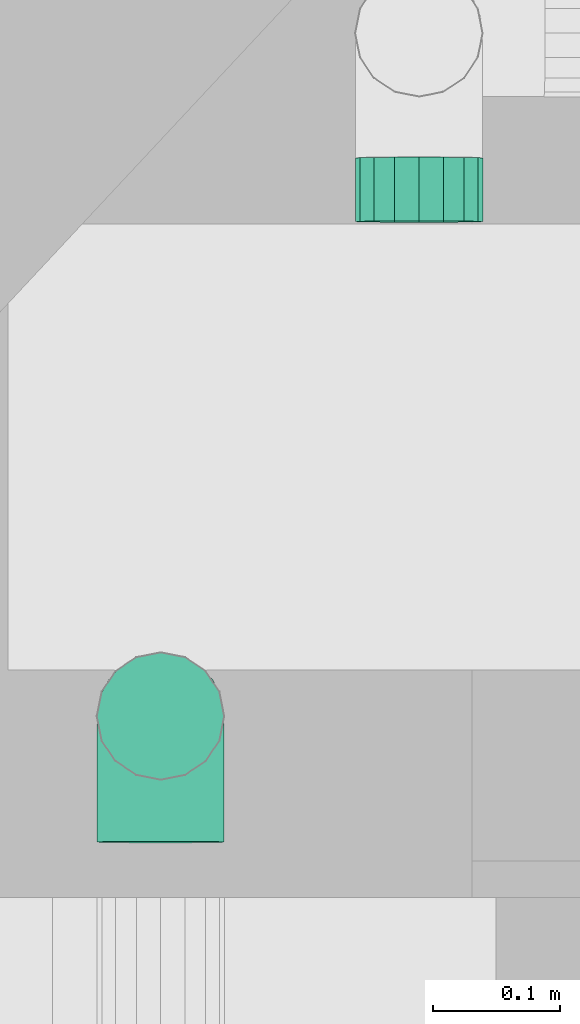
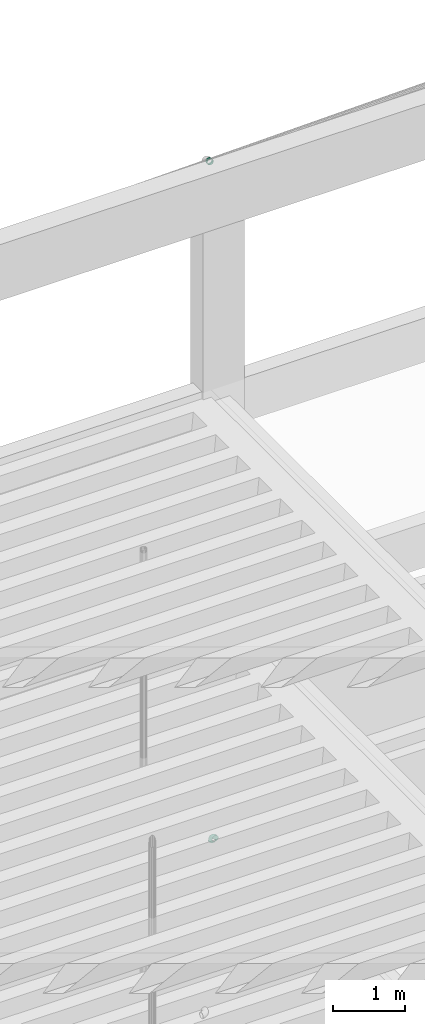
# One storey, part 90 of 108: 1 flow fitting, 1 flow segment.
"""IFC2X3 building model written with IfcOpenShell, lengths in metres."""

from ifc_helpers import new_model, entity, si_unit, converted_unit, derived_unit, money_unit, direction, frame, origin_with_axes, place, context, subcontext, project, spatial, open_shell, faceted_brep, surface_model, material, type_object, element, save


model = new_model("IFC2X3")

# Units and contexts
model_context = context("Model", 3, precision=1e-05, world=origin_with_axes(), true_north=direction((0.0, 1.0)))
body_context = subcontext(model_context, "Body", "Model", "MODEL_VIEW", scale=1.0)
ifc_project = project(units=[si_unit("LENGTHUNIT", "METRE"), si_unit("AREAUNIT", "SQUARE_METRE"), si_unit("VOLUMEUNIT", "CUBIC_METRE"), si_unit("ABSORBEDDOSEUNIT", "GRAY"), si_unit("AMOUNTOFSUBSTANCEUNIT", "MOLE"), si_unit("DOSEEQUIVALENTUNIT", "SIEVERT"), si_unit("ELECTRICCAPACITANCEUNIT", "FARAD"), si_unit("ELECTRICCHARGEUNIT", "COULOMB"), si_unit("ELECTRICCONDUCTANCEUNIT", "SIEMENS"), si_unit("ELECTRICCURRENTUNIT", "AMPERE"), si_unit("ELECTRICRESISTANCEUNIT", "OHM"), si_unit("ELECTRICVOLTAGEUNIT", "VOLT"), si_unit("ENERGYUNIT", "JOULE"), si_unit("FORCEUNIT", "NEWTON"), si_unit("FREQUENCYUNIT", "HERTZ"), si_unit("ILLUMINANCEUNIT", "LUX"), si_unit("INDUCTANCEUNIT", "HENRY"), si_unit("LUMINOUSFLUXUNIT", "LUMEN"), si_unit("LUMINOUSINTENSITYUNIT", "CANDELA"), si_unit("MAGNETICFLUXDENSITYUNIT", "TESLA"), si_unit("MAGNETICFLUXUNIT", "WEBER"), si_unit("MASSUNIT", "GRAM"), converted_unit("PLANEANGLEUNIT", "degree", entity("IfcReal", 0.0174532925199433), si_unit("PLANEANGLEUNIT", "RADIAN"), dimensions=[0, 0, 0, 0, 0, 0, 0]), si_unit("POWERUNIT", "WATT"), si_unit("PRESSUREUNIT", "PASCAL"), si_unit("RADIOACTIVITYUNIT", "BECQUEREL"), si_unit("SOLIDANGLEUNIT", "STERADIAN"), si_unit("THERMODYNAMICTEMPERATUREUNIT", "KELVIN"), si_unit("TIMEUNIT", "SECOND"), derived_unit("ACCELERATIONUNIT", [(si_unit("LENGTHUNIT", "METRE"), 1), (si_unit("TIMEUNIT", "SECOND"), -2)]), derived_unit("ANGULARVELOCITYUNIT", [(converted_unit("PLANEANGLEUNIT", "degree", entity("IfcReal", 0.0174532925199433), si_unit("PLANEANGLEUNIT", "RADIAN"), dimensions=[0, 0, 0, 0, 0, 0, 0]), 1), (si_unit("TIMEUNIT", "SECOND"), -1)]), derived_unit("CURVATUREUNIT", [(converted_unit("PLANEANGLEUNIT", "degree", entity("IfcReal", 0.0174532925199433), si_unit("PLANEANGLEUNIT", "RADIAN"), dimensions=[0, 0, 0, 0, 0, 0, 0]), 1), (si_unit("LENGTHUNIT", "METRE"), -1)]), derived_unit("DYNAMICVISCOSITYUNIT", [(si_unit("PRESSUREUNIT", "PASCAL"), 1), (si_unit("TIMEUNIT", "SECOND"), 1)]), derived_unit("HEATFLUXDENSITYUNIT", [(si_unit("POWERUNIT", "WATT"), 1), (si_unit("LENGTHUNIT", "METRE"), -2)]), derived_unit("HEATINGVALUEUNIT", [(si_unit("ENERGYUNIT", "JOULE"), 1), (si_unit("MASSUNIT", "GRAM"), -1)]), derived_unit("INTEGERCOUNTRATEUNIT", [(si_unit("TIMEUNIT", "SECOND"), -1)]), derived_unit("IONCONCENTRATIONUNIT", [(si_unit("MASSUNIT", "GRAM"), 1), (si_unit("VOLUMEUNIT", "CUBIC_METRE"), -1)]), derived_unit("ISOTHERMALMOISTURECAPACITYUNIT", [(si_unit("VOLUMEUNIT", "CUBIC_METRE"), 1), (si_unit("MASSUNIT", "GRAM"), -1)]), derived_unit("KINEMATICVISCOSITYUNIT", [(si_unit("AREAUNIT", "SQUARE_METRE"), 1), (si_unit("TIMEUNIT", "SECOND"), -1)]), derived_unit("LINEARFORCEUNIT", [(si_unit("FORCEUNIT", "NEWTON"), 1), (si_unit("LENGTHUNIT", "METRE"), -1)]), derived_unit("LINEARMOMENTUNIT", [(si_unit("FORCEUNIT", "NEWTON"), 1), (si_unit("LENGTHUNIT", "METRE"), -1)]), derived_unit("LINEARSTIFFNESSUNIT", [(si_unit("FORCEUNIT", "NEWTON"), 1), (si_unit("LENGTHUNIT", "METRE"), -1)]), derived_unit("LINEARVELOCITYUNIT", [(si_unit("LENGTHUNIT", "METRE"), 1), (si_unit("TIMEUNIT", "SECOND"), -1)]), derived_unit("LUMINOUSINTENSITYDISTRIBUTIONUNIT", [(si_unit("LUMINOUSINTENSITYUNIT", "CANDELA"), 1), (si_unit("LUMINOUSFLUXUNIT", "LUMEN"), -1)]), derived_unit("MASSDENSITYUNIT", [(si_unit("MASSUNIT", "GRAM"), 1), (si_unit("VOLUMEUNIT", "CUBIC_METRE"), -1)]), derived_unit("MASSFLOWRATEUNIT", [(si_unit("MASSUNIT", "GRAM"), 1), (si_unit("TIMEUNIT", "SECOND"), -1)]), derived_unit("MASSPERLENGTHUNIT", [(si_unit("MASSUNIT", "GRAM"), 1), (si_unit("LENGTHUNIT", "METRE"), -1)]), derived_unit("MODULUSOFELASTICITYUNIT", [(si_unit("FORCEUNIT", "NEWTON"), 1), (si_unit("AREAUNIT", "SQUARE_METRE"), -1)]), derived_unit("MODULUSOFLINEARSUBGRADEREACTIONUNIT", [(si_unit("FORCEUNIT", "NEWTON"), 1), (si_unit("LENGTHUNIT", "METRE"), -2)]), derived_unit("MODULUSOFROTATIONALSUBGRADEREACTIONUNIT", [(si_unit("FORCEUNIT", "NEWTON"), 1), (si_unit("LENGTHUNIT", "METRE"), 1)]), derived_unit("MODULUSOFSUBGRADEREACTIONUNIT", [(si_unit("FORCEUNIT", "NEWTON"), 1), (si_unit("VOLUMEUNIT", "CUBIC_METRE"), -1)]), derived_unit("MOISTUREDIFFUSIVITYUNIT", [(si_unit("VOLUMEUNIT", "CUBIC_METRE"), 1), (si_unit("TIMEUNIT", "SECOND"), -1)]), derived_unit("MOLECULARWEIGHTUNIT", [(si_unit("MASSUNIT", "GRAM"), 1), (si_unit("AMOUNTOFSUBSTANCEUNIT", "MOLE"), -1)]), derived_unit("PLANARFORCEUNIT", [(si_unit("FORCEUNIT", "NEWTON"), 1), (si_unit("LENGTHUNIT", "METRE"), -2)]), derived_unit("ROTATIONALFREQUENCYUNIT", [(si_unit("TIMEUNIT", "SECOND"), -1)]), derived_unit("ROTATIONALMASSUNIT", [(si_unit("MASSUNIT", "GRAM"), 1), (si_unit("LENGTHUNIT", "METRE"), 2)]), derived_unit("ROTATIONALSTIFFNESSUNIT", [(si_unit("FORCEUNIT", "NEWTON"), 1), (si_unit("LENGTHUNIT", "METRE"), 1), (converted_unit("PLANEANGLEUNIT", "degree", entity("IfcReal", 0.0174532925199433), si_unit("PLANEANGLEUNIT", "RADIAN"), dimensions=[0, 0, 0, 0, 0, 0, 0]), -1)]), derived_unit("SECTIONAREAINTEGRALUNIT", [(si_unit("LENGTHUNIT", "METRE"), 5)]), derived_unit("SECTIONMODULUSUNIT", [(si_unit("LENGTHUNIT", "METRE"), 3)]), derived_unit("SHEARMODULUSUNIT", [(si_unit("FORCEUNIT", "NEWTON"), 1), (si_unit("AREAUNIT", "SQUARE_METRE"), -1)]), derived_unit("SOUNDPOWERUNIT", [(si_unit("ENERGYUNIT", "JOULE"), 1), (si_unit("TIMEUNIT", "SECOND"), -1)]), derived_unit("SPECIFICHEATCAPACITYUNIT", [(si_unit("FORCEUNIT", "NEWTON"), 1), (si_unit("MASSUNIT", "GRAM"), -1), (si_unit("THERMODYNAMICTEMPERATUREUNIT", "KELVIN"), -1)]), derived_unit("TEMPERATUREGRADIENTUNIT", [(si_unit("THERMODYNAMICTEMPERATUREUNIT", "KELVIN"), 1), (si_unit("LENGTHUNIT", "METRE"), -1)]), derived_unit("THERMALADMITTANCEUNIT", [(si_unit("POWERUNIT", "WATT"), 1), (si_unit("AREAUNIT", "SQUARE_METRE"), -1), (si_unit("THERMODYNAMICTEMPERATUREUNIT", "KELVIN"), -1)]), derived_unit("THERMALCONDUCTANCEUNIT", [(si_unit("POWERUNIT", "WATT"), 1), (si_unit("LENGTHUNIT", "METRE"), -1), (si_unit("THERMODYNAMICTEMPERATUREUNIT", "KELVIN"), -1)]), derived_unit("THERMALEXPANSIONCOEFFICIENTUNIT", [(si_unit("THERMODYNAMICTEMPERATUREUNIT", "KELVIN"), -1)]), derived_unit("THERMALRESISTANCEUNIT", [(si_unit("AREAUNIT", "SQUARE_METRE"), 1), (si_unit("POWERUNIT", "WATT"), -1)]), derived_unit("THERMALTRANSMITTANCEUNIT", [(si_unit("POWERUNIT", "WATT"), 1), (si_unit("AREAUNIT", "SQUARE_METRE"), -1), (si_unit("THERMODYNAMICTEMPERATUREUNIT", "KELVIN"), -1)]), derived_unit("TORQUEUNIT", [(si_unit("FORCEUNIT", "NEWTON"), 1), (si_unit("LENGTHUNIT", "METRE"), 1)]), derived_unit("VAPORPERMEABILITYUNIT", [(si_unit("MASSUNIT", "GRAM"), 1), (si_unit("TIMEUNIT", "SECOND"), -1)]), derived_unit("VOLUMETRICFLOWRATEUNIT", [(si_unit("VOLUMEUNIT", "CUBIC_METRE"), 1), (si_unit("TIMEUNIT", "SECOND"), -1)]), derived_unit("WARPINGCONSTANTUNIT", [(si_unit("LENGTHUNIT", "METRE"), 6)]), derived_unit("WARPINGMOMENTUNIT", [(si_unit("FORCEUNIT", "NEWTON"), 1), (si_unit("LENGTHUNIT", "METRE"), 2)]), money_unit("GBP")], contexts=[model_context])

# Site, building, storey
site_placement = place(None, origin_with_axes())
site = spatial("IfcSite", under=ifc_project, at=site_placement, Name="Site", CompositionType="ELEMENT")
building_placement = place(site_placement, origin_with_axes())
building = spatial("IfcBuilding", under=site, at=building_placement, Name="Building01", CompositionType="ELEMENT")
storey_placement = place(building_placement, origin_with_axes())
storey = spatial("IfcBuildingStorey", under=building, at=storey_placement, Name="GF", CompositionType="ELEMENT", Elevation=0.0)

# Flow segment
ifc_material = material(Name="M_BSUK_ColdWater")
pipe_segment_type = type_object("IfcPipeSegmentType", Name="M-BmpStraightpipe-DefaultPipe", PredefinedType="RIGIDSEGMENT")
flow_segment_placement = place(storey_placement, frame((9.112744, 14.802004, 15.676629), z_axis=(0.0, 0.01249902, 0.99992188), x_axis=(0.0, 0.99992188, -0.01249902)))
element("IfcFlowSegment", 1, at=flow_segment_placement, inside=storey, type_object=pipe_segment_type, material=ifc_material, Name="M-BmpStraightpipe-DefaultPipe", ObjectType="M-BmpStraightpipe-DefaultPipe", context=body_context, shape_type="Brep", body=[
    faceted_brep([(0.05, 0.0, -0.05), (0.0, 0.0, -0.05), (0.0, 0.019134, -0.046194), (0.05, 0.019134, -0.046194), (0.0, 0.035355, -0.035355), (0.05, 0.035355, -0.035355), (0.0, 0.046194, -0.019134), (0.05, 0.046194, -0.019134), (0.0, 0.05, 0.0), (0.05, 0.05, 0.0), (0.0, 0.046194, 0.019134), (0.05, 0.046194, 0.019134), (0.0, 0.035355, 0.035355), (0.05, 0.035355, 0.035355), (0.0, 0.019134, 0.046194), (0.05, 0.019134, 0.046194), (0.0, 0.0, 0.05), (0.05, 0.0, 0.05), (0.0, -0.019134, 0.046194), (0.05, -0.019134, 0.046194), (0.0, -0.035355, 0.035355), (0.05, -0.035355, 0.035355), (0.0, -0.046194, 0.019134), (0.05, -0.046194, 0.019134), (0.0, -0.05, 0.0), (0.05, -0.05, 0.0), (0.0, -0.046194, -0.019134), (0.05, -0.046194, -0.019134), (0.0, -0.035355, -0.035355), (0.05, -0.035355, -0.035355), (0.0, -0.019134, -0.046194), (0.05, -0.019134, -0.046194)], [[[0, 1, 2, 3]], [[3, 2, 4, 5]], [[5, 4, 6, 7]], [[7, 6, 8, 9]], [[9, 8, 10, 11]], [[11, 10, 12, 13]], [[13, 12, 14, 15]], [[15, 14, 16, 17]], [[17, 16, 18, 19]], [[19, 18, 20, 21]], [[21, 20, 22, 23]], [[23, 22, 24, 25]], [[25, 24, 26, 27]], [[27, 26, 28, 29]], [[29, 28, 30, 31]], [[31, 30, 1, 0]]]),
])

# Flow fitting
pipe_fitting_type = type_object("IfcPipeFittingType", Name="M-BmpElbow-DefaultElbow", PredefinedType="BEND")
flow_fitting_placement = place(storey_placement, frame((8.909935, 14.315044, 4.544738), z_axis=(0.0, 0.01249902, 0.99992188), x_axis=(0.0, 0.99992188, -0.01249902)))
element("IfcFlowFitting", 2, at=flow_fitting_placement, inside=storey, type_object=pipe_fitting_type, material=ifc_material, Name="M-BmpElbow-DefaultElbow", ObjectType="M-BmpElbow-DefaultElbow", context=body_context, shape_type="SurfaceModel", body=[
    surface_model("IfcShellBasedSurfaceModel", [(0.008048, -0.01349, -0.048774), (0.0, -0.01349, -0.048146), (0.0, 0.0, -0.05), (0.00776, 0.0, -0.050606), (0.0159, -0.01349, -0.050644), (0.015332, 0.0, -0.052409), (0.023368, -0.01349, -0.05371), (0.022532, 0.0, -0.055365), (0.030269, -0.01349, -0.057897), (0.029187, 0.0, -0.059403), (0.036437, -0.01349, -0.063105), (0.035134, 0.0, -0.064424), (0.041721, -0.01349, -0.069207), (0.040229, 0.0, -0.070308), (0.045995, -0.01349, -0.076055), (0.04435, 0.0, -0.076912), (0.049154, -0.01349, -0.083484), (0.047396, 0.0, -0.084074), (0.051121, -0.01349, -0.091313), (0.049293, 0.0, -0.091623), (0.05185, -0.01349, -0.099352), (0.049996, 0.0, -0.099375), (0.00889, -0.025979, -0.043415), (0.0, -0.025979, -0.042721), (0.017564, -0.025979, -0.04548), (0.025813, -0.025979, -0.048867), (0.033436, -0.025979, -0.053493), (0.040248, -0.025979, -0.059245), (0.046086, -0.025979, -0.065986), (0.050807, -0.025979, -0.07355), (0.054296, -0.025979, -0.081756), (0.056469, -0.025979, -0.090404), (0.057275, -0.025979, -0.099284), (0.010223, -0.036542, -0.034926), (0.0, -0.036542, -0.034128), (0.020199, -0.036542, -0.037301), (0.029685, -0.036542, -0.041196), (0.038452, -0.036542, -0.046515), (0.046287, -0.036542, -0.053131), (0.053, -0.036542, -0.060883), (0.058429, -0.036542, -0.069582), (0.062442, -0.036542, -0.079019), (0.064941, -0.036542, -0.088964), (0.065867, -0.036542, -0.099177), (0.01195, -0.044394, -0.023936), (0.0, -0.044394, -0.023003), (0.02361, -0.044394, -0.026712), (0.034698, -0.044394, -0.031265), (0.044946, -0.044394, -0.037483), (0.054104, -0.044394, -0.045216), (0.061951, -0.044394, -0.054277), (0.068296, -0.044394, -0.064445), (0.072987, -0.044394, -0.075476), (0.075908, -0.044394, -0.0871), (0.076991, -0.044394, -0.099038), (0.013941, -0.048954, -0.011261), (0.0, -0.048954, -0.010173), (0.027544, -0.048954, -0.0145), (0.04048, -0.048954, -0.019811), (0.052435, -0.048954, -0.027065), (0.063119, -0.048954, -0.036087), (0.072274, -0.048954, -0.046657), (0.079677, -0.048954, -0.058521), (0.085149, -0.048954, -0.071389), (0.088558, -0.048954, -0.084951), (0.08982, -0.048954, -0.098877), (0.01605, -0.049883, 0.002159), (0.0, -0.049883, 0.003412), (0.03171, -0.049883, -0.00157), (0.046602, -0.049883, -0.007684), (0.060365, -0.049883, -0.016035), (0.072665, -0.049883, -0.026421), (0.083204, -0.049883, -0.03859), (0.091727, -0.049883, -0.052247), (0.098026, -0.049883, -0.067062), (0.101951, -0.049883, -0.082675), (0.103404, -0.049883, -0.098707), (0.018119, -0.047113, 0.015329), (0.0, -0.047113, 0.016744), (0.035798, -0.047113, 0.01112), (0.05261, -0.047113, 0.004218), (0.068147, -0.047113, -0.00521), (0.082033, -0.047113, -0.016935), (0.093931, -0.047113, -0.030673), (0.103552, -0.047113, -0.046091), (0.110664, -0.047113, -0.062816), (0.115094, -0.047113, -0.080441), (0.116735, -0.047113, -0.098541), (0.019995, -0.040848, 0.027273), (0.0, -0.040848, 0.028834), (0.039505, -0.040848, 0.022628), (0.058059, -0.040848, 0.01501), (0.075205, -0.040848, 0.004606), (0.090528, -0.040848, -0.008333), (0.103658, -0.040848, -0.023494), (0.114276, -0.040848, -0.040508), (0.122124, -0.040848, -0.058965), (0.127013, -0.040848, -0.078416), (0.128824, -0.040848, -0.09839), (0.021539, -0.031554, 0.037104), (0.0, -0.031554, 0.038786), (0.042557, -0.031554, 0.0321), (0.062543, -0.031554, 0.023894), (0.081014, -0.031554, 0.012686), (0.097521, -0.031554, -0.001252), (0.111665, -0.031554, -0.017584), (0.123103, -0.031554, -0.035913), (0.131557, -0.031554, -0.055795), (0.136824, -0.031554, -0.076749), (0.138775, -0.031554, -0.098265), (0.022638, -0.01992, 0.044093), (0.0, -0.01992, 0.045861), (0.044726, -0.01992, 0.038834), (0.065732, -0.01992, 0.03021), (0.085144, -0.01992, 0.018431), (0.102492, -0.01992, 0.003782), (0.117357, -0.01992, -0.013383), (0.129378, -0.01992, -0.032646), (0.138264, -0.01992, -0.053542), (0.143799, -0.01992, -0.075563), (0.145849, -0.01992, -0.098177), (0.023208, -0.006808, 0.047722), (0.0, -0.006808, 0.049534), (0.045853, -0.006808, 0.042331), (0.067387, -0.006808, 0.03349), (0.087288, -0.006808, 0.021414), (0.105074, -0.006808, 0.006395), (0.120313, -0.006808, -0.011201), (0.132637, -0.006808, -0.03095), (0.141746, -0.006808, -0.052372), (0.147421, -0.006808, -0.074948), (0.149523, -0.006808, -0.098131), (0.023208, 0.006808, 0.047722), (0.0, 0.006808, 0.049534), (0.045853, 0.006808, 0.042331), (0.067387, 0.006808, 0.03349), (0.087288, 0.006808, 0.021414), (0.105074, 0.006808, 0.006395), (0.120313, 0.006808, -0.011201), (0.132637, 0.006808, -0.03095), (0.141746, 0.006808, -0.052372), (0.147421, 0.006808, -0.074948), (0.149523, 0.006808, -0.098131), (0.022638, 0.01992, 0.044093), (0.0, 0.01992, 0.045861), (0.044726, 0.01992, 0.038834), (0.065732, 0.01992, 0.03021), (0.085144, 0.01992, 0.018431), (0.102492, 0.01992, 0.003782), (0.117357, 0.01992, -0.013383), (0.129378, 0.01992, -0.032646), (0.138264, 0.01992, -0.053542), (0.143799, 0.01992, -0.075563), (0.145849, 0.01992, -0.098177), (0.021539, 0.031554, 0.037104), (0.0, 0.031554, 0.038786), (0.042557, 0.031554, 0.0321), (0.062543, 0.031554, 0.023894), (0.081014, 0.031554, 0.012686), (0.097521, 0.031554, -0.001252), (0.111665, 0.031554, -0.017584), (0.123103, 0.031554, -0.035913), (0.131557, 0.031554, -0.055795), (0.136824, 0.031554, -0.076749), (0.138775, 0.031554, -0.098265), (0.019995, 0.040848, 0.027273), (0.0, 0.040848, 0.028834), (0.039505, 0.040848, 0.022628), (0.058059, 0.040848, 0.01501), (0.075205, 0.040848, 0.004606), (0.090528, 0.040848, -0.008333), (0.103658, 0.040848, -0.023494), (0.114276, 0.040848, -0.040508), (0.122124, 0.040848, -0.058965), (0.127013, 0.040848, -0.078416), (0.128824, 0.040848, -0.09839), (0.018119, 0.047113, 0.015329), (0.0, 0.047113, 0.016744), (0.035798, 0.047113, 0.01112), (0.05261, 0.047113, 0.004218), (0.068147, 0.047113, -0.00521), (0.082033, 0.047113, -0.016935), (0.093931, 0.047113, -0.030673), (0.103552, 0.047113, -0.046091), (0.110664, 0.047113, -0.062816), (0.115094, 0.047113, -0.080441), (0.116735, 0.047113, -0.098541), (0.01605, 0.049883, 0.002159), (0.0, 0.049883, 0.003412), (0.03171, 0.049883, -0.00157), (0.046602, 0.049883, -0.007684), (0.060365, 0.049883, -0.016035), (0.072665, 0.049883, -0.026421), (0.083204, 0.049883, -0.03859), (0.091727, 0.049883, -0.052247), (0.098026, 0.049883, -0.067062), (0.101951, 0.049883, -0.082675), (0.103404, 0.049883, -0.098707), (0.013941, 0.048954, -0.011261), (0.0, 0.048954, -0.010173), (0.027544, 0.048954, -0.0145), (0.04048, 0.048954, -0.019811), (0.052435, 0.048954, -0.027065), (0.063119, 0.048954, -0.036087), (0.072274, 0.048954, -0.046657), (0.079677, 0.048954, -0.058521), (0.085149, 0.048954, -0.071389), (0.088558, 0.048954, -0.084951), (0.08982, 0.048954, -0.098877), (0.01195, 0.044394, -0.023936), (0.0, 0.044394, -0.023003), (0.02361, 0.044394, -0.026712), (0.034698, 0.044394, -0.031265), (0.044946, 0.044394, -0.037483), (0.054104, 0.044394, -0.045216), (0.061951, 0.044394, -0.054277), (0.068296, 0.044394, -0.064445), (0.072987, 0.044394, -0.075476), (0.075908, 0.044394, -0.0871), (0.076991, 0.044394, -0.099038), (0.010223, 0.036542, -0.034926), (0.0, 0.036542, -0.034128), (0.020199, 0.036542, -0.037301), (0.029685, 0.036542, -0.041196), (0.038452, 0.036542, -0.046515), (0.046287, 0.036542, -0.053131), (0.053, 0.036542, -0.060883), (0.058429, 0.036542, -0.069582), (0.062442, 0.036542, -0.079019), (0.064941, 0.036542, -0.088964), (0.065867, 0.036542, -0.099177), (0.00889, 0.025979, -0.043415), (0.0, 0.025979, -0.042721), (0.017564, 0.025979, -0.04548), (0.025813, 0.025979, -0.048867), (0.033436, 0.025979, -0.053493), (0.040248, 0.025979, -0.059245), (0.046086, 0.025979, -0.065986), (0.050807, 0.025979, -0.07355), (0.054296, 0.025979, -0.081756), (0.056469, 0.025979, -0.090404), (0.057275, 0.025979, -0.099284), (0.008048, 0.01349, -0.048774), (0.0, 0.01349, -0.048146), (0.0159, 0.01349, -0.050644), (0.023368, 0.01349, -0.05371), (0.030269, 0.01349, -0.057897), (0.036437, 0.01349, -0.063105), (0.041721, 0.01349, -0.069207), (0.045995, 0.01349, -0.076055), (0.049154, 0.01349, -0.083484), (0.051121, 0.01349, -0.091313), (0.05185, 0.01349, -0.099352)], [open_shell([[[0, 1, 2, 3]], [[4, 0, 3, 5]], [[6, 4, 5, 7]], [[8, 6, 7, 9]], [[10, 8, 9, 11]], [[12, 10, 11, 13]], [[14, 12, 13, 15]], [[16, 14, 15, 17]], [[18, 16, 17, 19]], [[20, 18, 19, 21]], [[22, 23, 1, 0]], [[24, 22, 0, 4]], [[25, 24, 4, 6]], [[26, 25, 6, 8]], [[27, 26, 8, 10]], [[28, 27, 10, 12]], [[29, 28, 12, 14]], [[30, 29, 14, 16]], [[31, 30, 16, 18]], [[32, 31, 18, 20]], [[33, 34, 23, 22]], [[35, 33, 22, 24]], [[36, 35, 24, 25]], [[37, 36, 25, 26]], [[38, 37, 26, 27]], [[39, 38, 27, 28]], [[40, 39, 28, 29]], [[41, 40, 29, 30]], [[42, 41, 30, 31]], [[43, 42, 31, 32]], [[44, 45, 34, 33]], [[46, 44, 33, 35]], [[47, 46, 35, 36]], [[48, 47, 36, 37]], [[49, 48, 37, 38]], [[50, 49, 38, 39]], [[51, 50, 39, 40]], [[52, 51, 40, 41]], [[53, 52, 41, 42]], [[54, 53, 42, 43]], [[55, 56, 45, 44]], [[57, 55, 44, 46]], [[58, 57, 46, 47]], [[59, 58, 47, 48]], [[60, 59, 48, 49]], [[61, 60, 49, 50]], [[62, 61, 50, 51]], [[63, 62, 51, 52]], [[64, 63, 52, 53]], [[65, 64, 53, 54]], [[66, 67, 56, 55]], [[68, 66, 55, 57]], [[69, 68, 57, 58]], [[70, 69, 58, 59]], [[71, 70, 59, 60]], [[72, 71, 60, 61]], [[73, 72, 61, 62]], [[74, 73, 62, 63]], [[75, 74, 63, 64]], [[76, 75, 64, 65]], [[77, 78, 67, 66]], [[79, 77, 66, 68]], [[80, 79, 68, 69]], [[81, 80, 69, 70]], [[82, 81, 70, 71]], [[83, 82, 71, 72]], [[84, 83, 72, 73]], [[85, 84, 73, 74]], [[86, 85, 74, 75]], [[87, 86, 75, 76]], [[88, 89, 78, 77]], [[90, 88, 77, 79]], [[91, 90, 79, 80]], [[92, 91, 80, 81]], [[93, 92, 81, 82]], [[94, 93, 82, 83]], [[95, 94, 83, 84]], [[96, 95, 84, 85]], [[97, 96, 85, 86]], [[98, 97, 86, 87]], [[99, 100, 89, 88]], [[101, 99, 88, 90]], [[102, 101, 90, 91]], [[103, 102, 91, 92]], [[104, 103, 92, 93]], [[105, 104, 93, 94]], [[106, 105, 94, 95]], [[107, 106, 95, 96]], [[108, 107, 96, 97]], [[109, 108, 97, 98]], [[110, 111, 100, 99]], [[112, 110, 99, 101]], [[113, 112, 101, 102]], [[114, 113, 102, 103]], [[115, 114, 103, 104]], [[116, 115, 104, 105]], [[117, 116, 105, 106]], [[118, 117, 106, 107]], [[119, 118, 107, 108]], [[120, 119, 108, 109]], [[121, 122, 111, 110]], [[123, 121, 110, 112]], [[124, 123, 112, 113]], [[125, 124, 113, 114]], [[126, 125, 114, 115]], [[127, 126, 115, 116]], [[128, 127, 116, 117]], [[129, 128, 117, 118]], [[130, 129, 118, 119]], [[131, 130, 119, 120]], [[132, 133, 122, 121]], [[134, 132, 121, 123]], [[135, 134, 123, 124]], [[136, 135, 124, 125]], [[137, 136, 125, 126]], [[138, 137, 126, 127]], [[139, 138, 127, 128]], [[140, 139, 128, 129]], [[141, 140, 129, 130]], [[142, 141, 130, 131]], [[143, 144, 133, 132]], [[145, 143, 132, 134]], [[146, 145, 134, 135]], [[147, 146, 135, 136]], [[148, 147, 136, 137]], [[149, 148, 137, 138]], [[150, 149, 138, 139]], [[151, 150, 139, 140]], [[152, 151, 140, 141]], [[153, 152, 141, 142]], [[154, 155, 144, 143]], [[156, 154, 143, 145]], [[157, 156, 145, 146]], [[158, 157, 146, 147]], [[159, 158, 147, 148]], [[160, 159, 148, 149]], [[161, 160, 149, 150]], [[162, 161, 150, 151]], [[163, 162, 151, 152]], [[164, 163, 152, 153]], [[165, 166, 155, 154]], [[167, 165, 154, 156]], [[168, 167, 156, 157]], [[169, 168, 157, 158]], [[170, 169, 158, 159]], [[171, 170, 159, 160]], [[172, 171, 160, 161]], [[173, 172, 161, 162]], [[174, 173, 162, 163]], [[175, 174, 163, 164]], [[176, 177, 166, 165]], [[178, 176, 165, 167]], [[179, 178, 167, 168]], [[180, 179, 168, 169]], [[181, 180, 169, 170]], [[182, 181, 170, 171]], [[183, 182, 171, 172]], [[184, 183, 172, 173]], [[185, 184, 173, 174]], [[186, 185, 174, 175]], [[187, 188, 177, 176]], [[189, 187, 176, 178]], [[190, 189, 178, 179]], [[191, 190, 179, 180]], [[192, 191, 180, 181]], [[193, 192, 181, 182]], [[194, 193, 182, 183]], [[195, 194, 183, 184]], [[196, 195, 184, 185]], [[197, 196, 185, 186]], [[198, 199, 188, 187]], [[200, 198, 187, 189]], [[201, 200, 189, 190]], [[202, 201, 190, 191]], [[203, 202, 191, 192]], [[204, 203, 192, 193]], [[205, 204, 193, 194]], [[206, 205, 194, 195]], [[207, 206, 195, 196]], [[208, 207, 196, 197]], [[209, 210, 199, 198]], [[211, 209, 198, 200]], [[212, 211, 200, 201]], [[213, 212, 201, 202]], [[214, 213, 202, 203]], [[215, 214, 203, 204]], [[216, 215, 204, 205]], [[217, 216, 205, 206]], [[218, 217, 206, 207]], [[219, 218, 207, 208]], [[220, 221, 210, 209]], [[222, 220, 209, 211]], [[223, 222, 211, 212]], [[224, 223, 212, 213]], [[225, 224, 213, 214]], [[226, 225, 214, 215]], [[227, 226, 215, 216]], [[228, 227, 216, 217]], [[229, 228, 217, 218]], [[230, 229, 218, 219]], [[231, 232, 221, 220]], [[233, 231, 220, 222]], [[234, 233, 222, 223]], [[235, 234, 223, 224]], [[236, 235, 224, 225]], [[237, 236, 225, 226]], [[238, 237, 226, 227]], [[239, 238, 227, 228]], [[240, 239, 228, 229]], [[241, 240, 229, 230]], [[242, 243, 232, 231]], [[244, 242, 231, 233]], [[245, 244, 233, 234]], [[246, 245, 234, 235]], [[247, 246, 235, 236]], [[248, 247, 236, 237]], [[249, 248, 237, 238]], [[250, 249, 238, 239]], [[251, 250, 239, 240]], [[252, 251, 240, 241]], [[3, 2, 243, 242]], [[5, 3, 242, 244]], [[7, 5, 244, 245]], [[9, 7, 245, 246]], [[11, 9, 246, 247]], [[13, 11, 247, 248]], [[15, 13, 248, 249]], [[17, 15, 249, 250]], [[19, 17, 250, 251]], [[21, 19, 251, 252]]])]),
])

save(model, "model.ifc")
